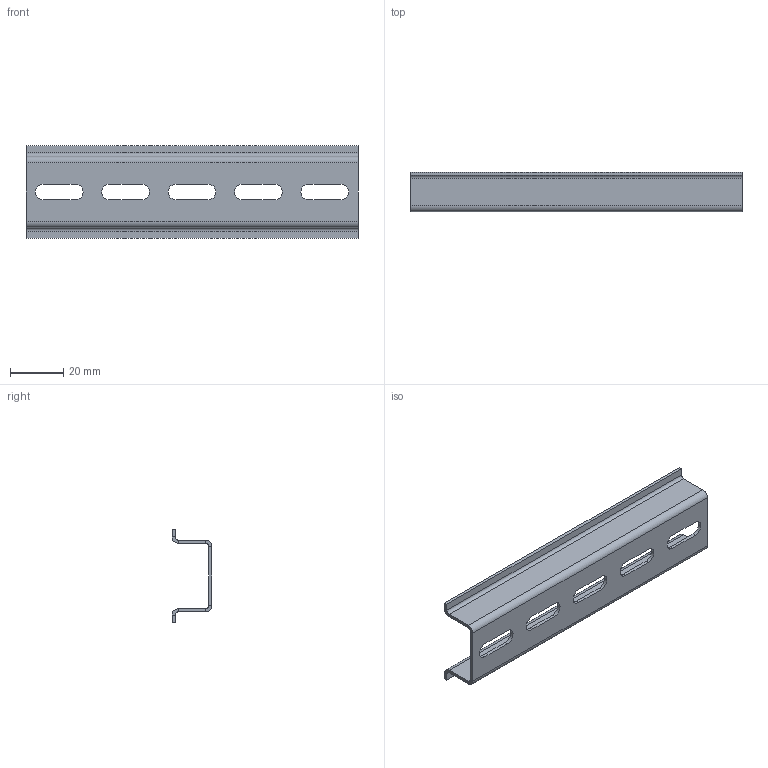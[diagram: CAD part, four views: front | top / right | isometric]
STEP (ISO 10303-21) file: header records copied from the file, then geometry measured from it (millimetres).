
FILE_DESCRIPTION (( 'STEP AP203' ), '1' );
FILE_NAME ('DIN 15.125 DIN-ðåéêà.STEP', '2023-10-27T14:04:44', ( '' ), ( '' ), 'SwSTEP 2.0', 'SolidWorks 2019', '' );
FILE_SCHEMA (( 'CONFIG_CONTROL_DESIGN' ));
Length unit declared in the file: millimetre
Products named in the file (1): DIN 15.125 DIN-ðåéêà
Bounding box: 125 x 15 x 35 mm (x, y, z)
Volume: 8324.8 mm3; surface area: 14574.6 mm2
Topology: 1 solids, 1 shells, 58 faces, 136 edges, 80 vertices
Faces by surface type: plane 40, cylinder 18
Entity records: 1717 total; most frequent: DIRECTION 290, CARTESIAN_POINT 275, ORIENTED_EDGE 272, EDGE_CURVE 136, VECTOR 100, LINE 100, AXIS2_PLACEMENT_3D 95, VERTEX_POINT 80
